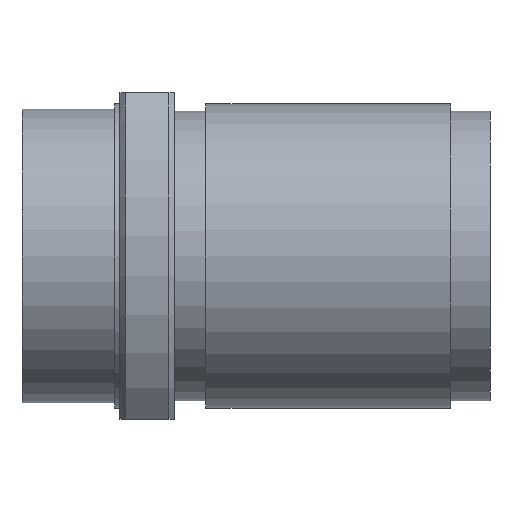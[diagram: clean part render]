
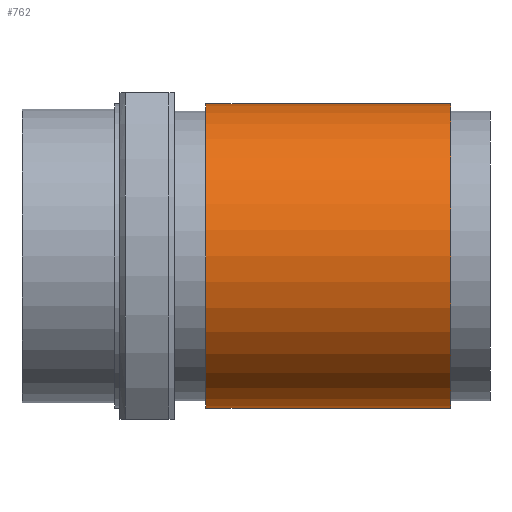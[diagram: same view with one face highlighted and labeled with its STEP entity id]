
A CAD part, front view. The second image highlights one B-rep face of the part: STEP entity #762.
In plain terms, the highlighted cylindrical face has radius 14 mm (diameter 28 mm), a full revolution.
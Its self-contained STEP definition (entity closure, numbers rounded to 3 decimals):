
#67=CYLINDRICAL_SURFACE('',#872,14.);
#137=ORIENTED_EDGE('',*,*,#288,.T.);
#138=ORIENTED_EDGE('',*,*,#287,.F.);
#287=EDGE_CURVE('',#367,#367,#437,.T.);
#288=EDGE_CURVE('',#368,#368,#438,.T.);
#367=VERTEX_POINT('',#1311);
#368=VERTEX_POINT('',#1314);
#437=CIRCLE('',#871,14.);
#438=CIRCLE('',#873,14.);
#508=EDGE_LOOP('',(#137));
#509=EDGE_LOOP('',(#138));
#630=FACE_BOUND('',#508,.T.);
#631=FACE_BOUND('',#509,.T.);
#762=ADVANCED_FACE('',(#630,#631),#67,.T.);
#871=AXIS2_PLACEMENT_3D('',#1310,#1038,#1039);
#872=AXIS2_PLACEMENT_3D('',#1312,#1040,#1041);
#873=AXIS2_PLACEMENT_3D('',#1313,#1042,#1043);
#1038=DIRECTION('',(1.,0.,0.));
#1039=DIRECTION('',(0.,0.,-1.));
#1040=DIRECTION('',(1.,0.,0.));
#1041=DIRECTION('',(0.,0.,-1.));
#1042=DIRECTION('',(1.,0.,0.));
#1043=DIRECTION('',(0.,0.,-1.));
#1310=CARTESIAN_POINT('',(39.375,0.,0.));
#1311=CARTESIAN_POINT('',(39.375,0.,-14.));
#1312=CARTESIAN_POINT('',(43.,0.,0.));
#1313=CARTESIAN_POINT('',(16.9,0.,0.));
#1314=CARTESIAN_POINT('',(16.9,0.,-14.));
